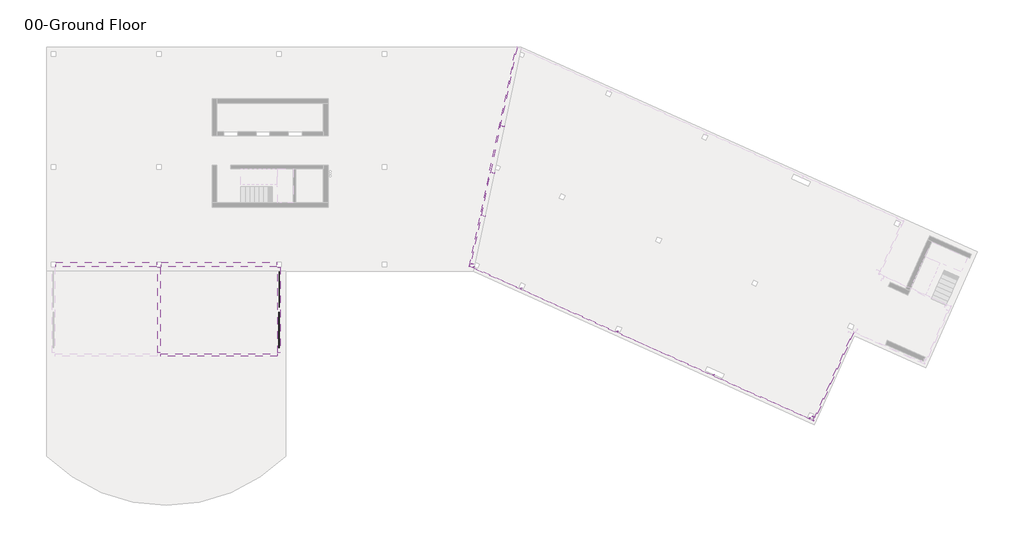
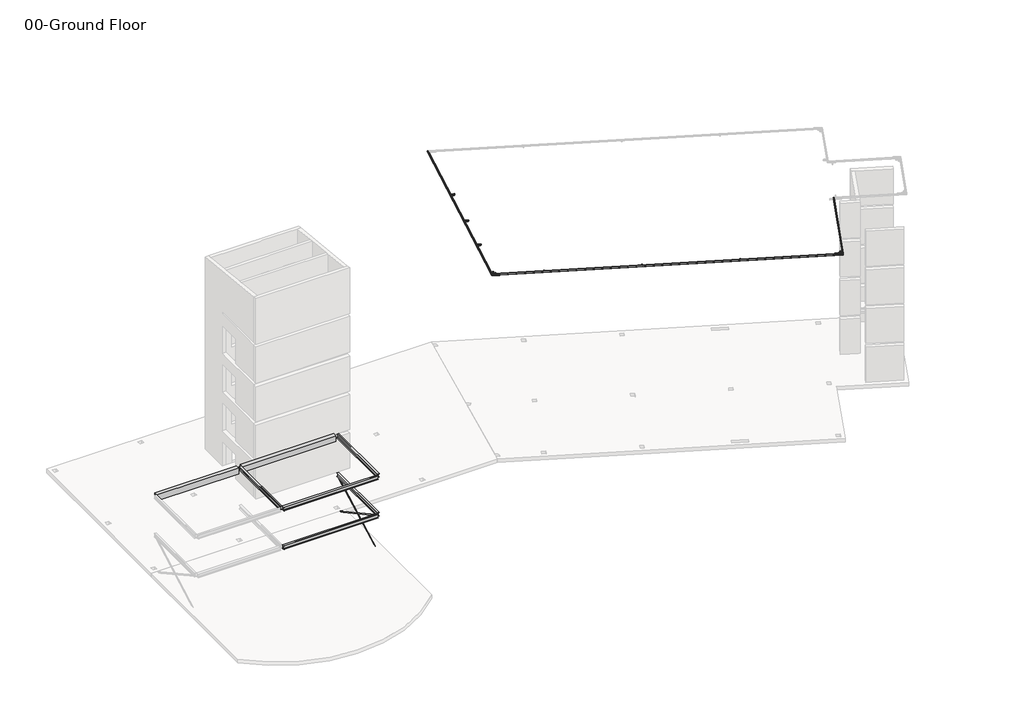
# One storey, part 3 of 5: 20 beams, 2 members.
"""IFC4 building model written with IfcOpenShell, lengths in millimetres."""

from ifc_helpers import new_model, si_unit, frame, origin, place, context, project, spatial, polyline, ellipse_curve, outline, extrude, transform, mapped, element, save
from ifc_brep_helpers import plane_surface, cylinder_surface, revolved_surface, advanced_brep
from components import hss_hollow_structural_section_hss3x2x1_8_139d3190, hss_hollow_structural_section_hss3x2x1_8_9bae5ac0, hss_hollow_structural_section_hss3x2x1_8_24952963, hss_hollow_structural_section_hss3x2x1_8_be35bb29, hss_hollow_structural_section_hss3x2x1_8_7ccaf686, hss_hollow_structural_section_hss3x2x1_8_c5a4428d, w_shapes_w12x26_597c9bcb, w_shapes_w12x26_85c0d87e, w_shapes_w12x26_268029d0, flat_bars_fl_3_8x4_f1b121f7, flat_bars_fl_3_8x4_35c656aa

model = new_model("IFC4")

# Units and contexts
model_context = context("Model", 3, world=origin())
ifc_project = project(units=[si_unit("LENGTHUNIT", "METRE", prefix="MILLI")], contexts=[model_context])

# Site, building, storey
site = spatial("IfcSite", under=ifc_project)
building = spatial("IfcBuilding", under=site)
storey = spatial("IfcBuildingStorey", under=building, Name="00-Ground Floor", Elevation=0.0)

# Beams
placement = place(None, origin())
element("IfcBeam", 1, ObjectType="Concrete-Rectangular Beam : 12 x 24", at=placement, inside=storey, context=model_context, shape_type="SweptSolid", body=[
    extrude(outline(polyline([(152.4, -14147.8), (152.4, -13843.0), (6858.0, -13843.0), (6858.0, -14147.8), (152.4, -14147.8)])), frame((0.0, 0.0, 5892.8), z_axis=(0.0, 0.0, 1.0), x_axis=(1.0, 0.0, 0.0)), (0.0, 0.0, 1.0), 508.0),
])
element("IfcBeam", 2, ObjectType="Concrete-Rectangular Beam : 12 x 24", at=placement, inside=storey, context=model_context, shape_type="SweptSolid", body=[
    extrude(outline(polyline([(14846.3, -13843.0), (14846.3, -14147.8), (7162.8, -14147.8), (7162.8, -13843.0), (14846.3, -13843.0)])), frame((0.0, 0.0, 5892.8), z_axis=(0.0, 0.0, 1.0), x_axis=(1.0, 0.0, 0.0)), (0.0, 0.0, 1.0), 508.0),
])
hss_hollow_structural_section_hss3x2x1_8_shape = hss_hollow_structural_section_hss3x2x1_8_139d3190(model_context)
element("IfcBeam", 3, ObjectType="HSS-Hollow Structural Section : HSS3X2X1/8", at=placement, inside=storey, context=model_context, shape_type="MappedRepresentation", body=[
    mapped(hss_hollow_structural_section_hss3x2x1_8_shape, transform((28553.1839899, -10746.3611508, 16083.2409028), x_axis=(0.9777434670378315, -0.20951645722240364, 0.010980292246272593), y_axis=(0.20870511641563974, 0.9766389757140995, 0.05117113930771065), z_axis=(-0.021444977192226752, -0.04774060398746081, 0.9986295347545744))),
])
element("IfcBeam", 4, ObjectType="HSS-Hollow Structural Section : HSS3X2X1/8", at=placement, inside=storey, context=model_context, shape_type="MappedRepresentation", body=[
    mapped(hss_hollow_structural_section_hss3x2x1_8_shape, transform((29163.4667864, -7890.5329109, 16232.8724333), x_axis=(0.9777434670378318, -0.20951645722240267, 0.010980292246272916), y_axis=(0.20870511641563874, 0.9766389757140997, 0.05117113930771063), z_axis=(-0.021444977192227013, -0.04774060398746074, 0.9986295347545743))),
])
element("IfcBeam", 5, ObjectType="HSS-Hollow Structural Section : HSS3X2X1/8", at=placement, inside=storey, context=model_context, shape_type="MappedRepresentation", body=[
    mapped(hss_hollow_structural_section_hss3x2x1_8_shape, transform((29824.9886577, -4794.9305897, 16395.0669613), x_axis=(0.9777434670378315, -0.2095164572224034, 0.010980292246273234), y_axis=(0.20870511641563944, 0.9766389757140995, 0.05117113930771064), z_axis=(-0.021444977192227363, -0.04774060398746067, 0.9986295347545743))),
])
hss_hollow_structural_section_hss3x2x1_8_2_shape = hss_hollow_structural_section_hss3x2x1_8_9bae5ac0(model_context)
element("IfcBeam", 6, ObjectType="HSS-Hollow Structural Section : HSS3X2X1/8", at=placement, inside=storey, context=model_context, shape_type="MappedRepresentation", body=[
    mapped(hss_hollow_structural_section_hss3x2x1_8_2_shape, transform((50488.6588069, -24090.2832168, 15916.3710717), x_axis=(0.9121951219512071, -0.4097560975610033, 0.0), y_axis=(0.4091945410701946, 0.910944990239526, 0.052335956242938), z_axis=(-0.021444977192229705, -0.04774060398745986, 0.9986295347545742))),
])
hss_hollow_structural_section_hss3x2x1_8_3_shape = hss_hollow_structural_section_hss3x2x1_8_24952963(model_context)
element("IfcBeam", 7, ObjectType="HSS-Hollow Structural Section : HSS3X2X1/8", at=placement, inside=storey, context=model_context, shape_type="MappedRepresentation", body=[
    mapped(hss_hollow_structural_section_hss3x2x1_8_3_shape, transform((50298.5513886, -24141.5699695, 15909.8368069), x_axis=(-0.4091945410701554, -0.9109449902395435, -0.052335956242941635), y_axis=(0.9121951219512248, -0.40975609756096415, 0.0), z_axis=(-0.021444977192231, -0.047740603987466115, 0.9986295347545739))),
])
element("IfcBeam", 8, ObjectType="HSS-Hollow Structural Section : HSS3X2X1/8", at=placement, inside=storey, context=model_context, shape_type="MappedRepresentation", body=[
    mapped(hss_hollow_structural_section_hss3x2x1_8_3_shape, transform((43903.6987057, -21269.0158231, 15909.8368069), x_axis=(-0.40919454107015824, -0.9109449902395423, -0.05233595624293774), y_axis=(0.9121951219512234, -0.4097560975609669, 0.0), z_axis=(-0.021444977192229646, -0.04774060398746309, 0.998629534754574))),
])
element("IfcBeam", 9, ObjectType="HSS-Hollow Structural Section : HSS3X2X1/8", at=placement, inside=storey, context=model_context, shape_type="MappedRepresentation", body=[
    mapped(hss_hollow_structural_section_hss3x2x1_8_3_shape, transform((31113.9933399, -15523.9075304, 15909.8368069), x_axis=(-0.40919454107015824, -0.9109449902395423, -0.05233595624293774), y_axis=(0.9121951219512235, -0.409756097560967, 0.0), z_axis=(-0.021444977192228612, -0.0477406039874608, 0.9986295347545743))),
])
hss_hollow_structural_section_hss3x2x1_8_4_shape = hss_hollow_structural_section_hss3x2x1_8_be35bb29(model_context)
element("IfcBeam", 10, ObjectType="HSS-Hollow Structural Section : HSS3X2X1/8", at=placement, inside=storey, context=model_context, shape_type="MappedRepresentation", body=[
    mapped(hss_hollow_structural_section_hss3x2x1_8_4_shape, transform((37509.7248478, -18394.5052449, 15909.9492086), x_axis=(-0.409194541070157, -0.910944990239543, -0.05233595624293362), y_axis=(0.912195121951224, -0.4097560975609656, 0.0), z_axis=(-0.021444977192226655, -0.04774060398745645, 0.9986295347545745))),
])
hss_hollow_structural_section_hss3x2x1_8_5_shape = hss_hollow_structural_section_hss3x2x1_8_7ccaf686(model_context)
element("IfcBeam", 11, ObjectType="HSS-Hollow Structural Section : HSS3X2X1/8", at=placement, inside=storey, context=model_context, shape_type="MappedRepresentation", body=[
    mapped(hss_hollow_structural_section_hss3x2x1_8_5_shape, transform((27860.6590059, -13959.5725396, 15914.7581682), x_axis=(-0.9777434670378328, 0.209516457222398, -0.010980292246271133), y_axis=(-0.20870511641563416, -0.9766389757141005, -0.05117113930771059), z_axis=(-0.021444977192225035, -0.047740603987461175, 0.9986295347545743))),
])
hss_hollow_structural_section_hss3x2x1_8_6_shape = hss_hollow_structural_section_hss3x2x1_8_c5a4428d(model_context)
element("IfcBeam", 12, ObjectType="HSS-Hollow Structural Section : HSS3X2X1/8", at=placement, inside=storey, context=model_context, shape_type="MappedRepresentation", body=[
    mapped(hss_hollow_structural_section_hss3x2x1_8_6_shape, transform((27952.9662678, -14104.0086143, 15909.8354835), x_axis=(-0.40919454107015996, -0.9109449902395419, -0.05233595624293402), y_axis=(0.9121951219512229, -0.40975609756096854, 0.0), z_axis=(-0.02144497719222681, -0.0477406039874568, 0.9986295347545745))),
])
element("IfcBeam", 13, ObjectType="HSS-Hollow Structural Section : HSS5X2X1/8", at=placement, inside=storey, context=model_context, shape_type="AdvancedBrep", body=[
    advanced_brep(
    [(30775.5166497, 477.596911, 16705.6903584), (30771.4031294, 486.233955, 16700.1140396), (27647.3085375, -14133.0173345, 15934.13627), (27653.9377637, -14129.882092, 15940.3293994), (30803.5876534, 422.2762939, 16703.6485024), (27698.6644754, -14107.262053, 15942.3712554), (30807.9539155, 414.2019015, 16697.455373), (27705.5464435, -14103.5641587, 15936.7949366), (30810.4246857, 419.7023065, 16582.3988703), (27708.0172137, -14098.0637537, 15821.7384339), (30806.3111655, 428.3393506, 16576.8225515), (27701.3879876, -14101.1989963, 15815.5453044), (30778.2401618, 483.6599677, 16578.8644074), (27656.6612758, -14123.8190353, 15813.5034485), (30773.8738996, 491.73436, 16585.0575369), (27649.7793077, -14127.5169295, 15819.0797673), (30775.5798351, 477.7375739, 16702.7479963), (30803.6508388, 422.4169568, 16700.7061404), (27698.7276609, -14107.1213901, 15939.4288933), (27654.0009491, -14129.7414291, 15937.3870374), (30773.523075, 482.0560959, 16699.9598369), (27650.6863361, -14131.3090503, 15934.2904726), (30775.9938452, 487.5565009, 16584.9033342), (27653.1571062, -14125.8086453, 15819.23397), (30778.1769763, 483.5193048, 16581.8067695), (27656.5980903, -14123.9596982, 15816.4458106), (30806.24798, 428.1986877, 16579.7649136), (27701.3248021, -14101.3396592, 15818.4876665), (30808.3047401, 423.8801657, 16582.553073), (27704.6394151, -14099.7720379, 15821.5842312), (30805.8339699, 418.3797606, 16697.6095756), (27702.168645, -14105.2724429, 15936.6407339)],
    [
        (0, 1, ellipse_curve(frame((30775.6430206, 477.8782368, 16699.8056342), z_axis=(-0.89162974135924, -0.4509318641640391, -0.04070452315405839), x_axis=(-0.45225713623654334, 0.8912807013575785, 0.0328967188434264)), 9.3749569, 5.8928)),
        (1, 2),
        (2, 3, ellipse_curve(frame((27654.0641346, -14129.6007661, 15934.4446753), z_axis=(-0.452257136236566, 0.8912807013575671, 0.03289671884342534), x_axis=(0.8916297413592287, 0.45093186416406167, 0.04070452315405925)), 7.5766843, 5.8928)),
        (3, 0),
        (4, 0),
        (3, 5),
        (5, 4),
        (6, 4, ellipse_curve(frame((30803.7140243, 422.5576197, 16697.7637783), z_axis=(-0.89162974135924, -0.4509318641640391, -0.04070452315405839), x_axis=(-0.45225713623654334, 0.8912807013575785, 0.0328967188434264)), 9.3749569, 5.8928)),
        (5, 7, ellipse_curve(frame((27698.7908464, -14106.9807271, 15936.4865312), z_axis=(-0.452257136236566, 0.8912807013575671, 0.03289671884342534), x_axis=(0.8916297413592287, 0.45093186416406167, 0.04070452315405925)), 7.5766843, 5.8928)),
        (7, 6),
        (8, 6),
        (7, 9),
        (9, 8),
        (10, 8, ellipse_curve(frame((30806.1847945, 428.0580248, 16582.7072756), z_axis=(-0.89162974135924, -0.4509318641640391, -0.04070452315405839), x_axis=(-0.45225713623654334, 0.8912807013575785, 0.0328967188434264)), 9.3749569, 5.8928)),
        (9, 11, ellipse_curve(frame((27701.2616166, -14101.4803221, 15821.4300286), z_axis=(-0.452257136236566, 0.8912807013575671, 0.03289671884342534), x_axis=(0.8916297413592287, 0.45093186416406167, 0.04070452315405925)), 7.5766843, 5.8928)),
        (11, 10),
        (12, 10),
        (11, 13),
        (13, 12),
        (14, 12, ellipse_curve(frame((30778.1137908, 483.3786418, 16584.7491316), z_axis=(-0.89162974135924, -0.4509318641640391, -0.04070452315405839), x_axis=(-0.45225713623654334, 0.8912807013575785, 0.0328967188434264)), 9.3749569, 5.8928)),
        (13, 15, ellipse_curve(frame((27656.5349048, -14124.1003611, 15819.3881726), z_axis=(-0.452257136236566, 0.8912807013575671, 0.03289671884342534), x_axis=(0.8916297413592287, 0.45093186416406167, 0.04070452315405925)), 7.5766843, 5.8928)),
        (15, 14),
        (1, 14),
        (15, 2),
        (16, 17),
        (17, 18),
        (18, 19),
        (19, 16),
        (20, 16, ellipse_curve(frame((30775.6430206, 477.8782368, 16699.8056342), z_axis=(0.89162974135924, 0.4509318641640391, 0.04070452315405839), x_axis=(0.45225713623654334, -0.8912807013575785, -0.0328967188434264)), 4.6874785, 2.9464)),
        (19, 21, ellipse_curve(frame((27654.0641346, -14129.6007661, 15934.4446753), z_axis=(0.452257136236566, -0.8912807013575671, -0.03289671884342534), x_axis=(-0.8916297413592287, -0.45093186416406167, -0.04070452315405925)), 3.7883422, 2.9464)),
        (21, 20),
        (22, 20),
        (21, 23),
        (23, 22),
        (24, 22, ellipse_curve(frame((30778.1137908, 483.3786418, 16584.7491316), z_axis=(0.89162974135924, 0.4509318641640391, 0.04070452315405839), x_axis=(0.45225713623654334, -0.8912807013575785, -0.0328967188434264)), 4.6874785, 2.9464)),
        (23, 25, ellipse_curve(frame((27656.5349048, -14124.1003611, 15819.3881726), z_axis=(0.452257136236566, -0.8912807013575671, -0.03289671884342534), x_axis=(-0.8916297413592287, -0.45093186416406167, -0.04070452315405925)), 3.7883422, 2.9464)),
        (25, 24),
        (26, 24),
        (25, 27),
        (27, 26),
        (28, 26, ellipse_curve(frame((30806.1847945, 428.0580248, 16582.7072756), z_axis=(0.89162974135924, 0.4509318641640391, 0.04070452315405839), x_axis=(0.45225713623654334, -0.8912807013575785, -0.0328967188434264)), 4.6874785, 2.9464)),
        (27, 29, ellipse_curve(frame((27701.2616166, -14101.4803221, 15821.4300286), z_axis=(0.452257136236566, -0.8912807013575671, -0.03289671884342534), x_axis=(-0.8916297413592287, -0.45093186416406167, -0.04070452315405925)), 3.7883422, 2.9464)),
        (29, 28),
        (30, 28),
        (29, 31),
        (31, 30),
        (17, 30, ellipse_curve(frame((30803.7140243, 422.5576197, 16697.7637783), z_axis=(0.89162974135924, 0.4509318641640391, 0.04070452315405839), x_axis=(0.45225713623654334, -0.8912807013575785, -0.0328967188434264)), 4.6874785, 2.9464)),
        (31, 18, ellipse_curve(frame((27698.7908464, -14106.9807271, 15936.4865312), z_axis=(0.452257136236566, -0.8912807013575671, -0.03289671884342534), x_axis=(-0.8916297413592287, -0.45093186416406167, -0.04070452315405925)), 3.7883422, 2.9464)),
    ],
    [
        cylinder_surface(frame((30770.6054851, 454.3050077, 16698.5705115), z_axis=(0.2087051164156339, 0.9766389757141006, 0.05117113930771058), x_axis=(0.9777434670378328, -0.20951645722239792, 0.010980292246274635)), 5.8928),
        plane_surface(frame((30770.4791142, 454.0236819, 16704.4552356), z_axis=(-0.02144497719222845, -0.04774060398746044, 0.9986295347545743), x_axis=(-0.2087051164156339, -0.9766389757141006, -0.05117113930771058))),
        cylinder_surface(frame((30808.7515598, 446.1308488, 16698.998901), z_axis=(0.2087051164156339, 0.9766389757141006, 0.05117113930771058), x_axis=(0.9777434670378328, -0.20951645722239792, 0.010980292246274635)), 5.8928),
        plane_surface(frame((30814.5132065, 444.8962102, 16699.0636057), z_axis=(0.9777434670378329, -0.20951645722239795, 0.010980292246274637), x_axis=(-0.2087051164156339, -0.9766389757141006, -0.05117113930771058))),
        cylinder_surface(frame((30811.22233, 451.6312539, 16583.9423984), z_axis=(0.2087051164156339, 0.9766389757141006, 0.05117113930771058), x_axis=(0.9777434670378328, -0.20951645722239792, 0.010980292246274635)), 5.8928),
        plane_surface(frame((30811.348701, 451.9125797, 16578.0576742), z_axis=(0.02144497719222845, 0.04774060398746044, -0.9986295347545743), x_axis=(-0.2087051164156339, -0.9766389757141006, -0.05117113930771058))),
        cylinder_surface(frame((30773.0762553, 459.8054127, 16583.5140088), z_axis=(0.2087051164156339, 0.9766389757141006, 0.05117113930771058), x_axis=(0.9777434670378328, -0.20951645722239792, 0.010980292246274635)), 5.8928),
        plane_surface(frame((30767.3146086, 461.0400513, 16583.4493042), z_axis=(-0.9777434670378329, 0.20951645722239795, -0.010980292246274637), x_axis=(-0.2087051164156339, -0.9766389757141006, -0.05117113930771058))),
        plane_surface(frame((30808.6883744, 445.9901859, 16701.9412631), z_axis=(0.02144497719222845, 0.04774060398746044, -0.9986295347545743), x_axis=(-0.2087051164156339, -0.9766389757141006, -0.05117113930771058))),
        revolved_surface(polyline([(27656.44798275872, -14132.54368889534, 15934.355177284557), (30779.284721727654, 480.82145733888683, 16700.024541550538)]), (30770.6054851, 454.3050077, 16698.5705115), (-0.2087051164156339, -0.9766389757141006, -0.05117113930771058)),
        plane_surface(frame((30767.7246618, 454.922327, 16698.5381592), z_axis=(0.9777434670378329, -0.20951645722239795, 0.010980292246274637), x_axis=(-0.2087051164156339, -0.9766389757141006, -0.05117113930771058))),
        revolved_surface(polyline([(27658.91875295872, -14127.04328389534, 15819.29867458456), (30781.75549192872, 486.3218623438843, 16584.968038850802)]), (30773.0762553, 459.8054127, 16583.5140088), (-0.2087051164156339, -0.9766389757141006, -0.05117113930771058)),
        plane_surface(frame((30773.1394408, 459.9460756, 16580.5716468), z_axis=(-0.02144497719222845, -0.04774060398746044, 0.9986295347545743), x_axis=(-0.2087051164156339, -0.9766389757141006, -0.05117113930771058))),
        revolved_surface(polyline([(27703.64546471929, -14104.423244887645, 15821.340530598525), (30809.826495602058, 431.00124534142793, 16582.92618300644)]), (30811.22233, 451.6312539, 16583.9423984), (-0.2087051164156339, -0.9766389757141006, -0.05117113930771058)),
        plane_surface(frame((30814.1031534, 451.0139346, 16583.9747507), z_axis=(-0.9777434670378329, 0.20951645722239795, -0.010980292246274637), x_axis=(-0.2087051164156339, -0.9766389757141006, -0.05117113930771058))),
        revolved_surface(polyline([(27701.174694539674, -14109.923649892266, 15936.397033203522), (30807.355725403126, 425.5008402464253, 16697.9826856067)]), (30808.7515598, 446.1308488, 16698.998901), (-0.2087051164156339, -0.9766389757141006, -0.05117113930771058)),
        plane_surface(frame((27703.7859653, -14107.4833186, 16018.7752312), z_axis=(0.4522571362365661, -0.8912807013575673, -0.03289671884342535), x_axis=(0.8918875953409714, 0.45194939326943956, 0.016681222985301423))),
        plane_surface(frame((30806.1934373, 410.2827416, 16779.4356677), z_axis=(0.8916297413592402, 0.4509318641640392, 0.0407045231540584), x_axis=(0.4527652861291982, -0.8880191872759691, -0.08015933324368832))),
    ],
    [
        (0, [[1, 2, 3, 4]]),
        (1, [[5, -4, 6, 7]]),
        (2, [[8, -7, 9, 10]]),
        (3, [[11, -10, 12, 13]]),
        (4, [[14, -13, 15, 16]]),
        (5, [[17, -16, 18, 19]]),
        (6, [[20, -19, 21, 22]]),
        (7, [[23, -22, 24, -2]]),
        (8, [[25, 26, 27, 28]]),
        (9, [[29, -28, 30, 31]]),
        (10, [[32, -31, 33, 34]]),
        (11, [[35, -34, 36, 37]]),
        (12, [[38, -37, 39, 40]]),
        (13, [[41, -40, 42, 43]]),
        (14, [[44, -43, 45, 46]]),
        (15, [[47, -46, 48, -26]]),
        (16, [[-24, -21, -18, -15, -12, -9, -6, -3], [-48, -45, -42, -39, -36, -33, -30, -27]]),
        (17, [[-1, -5, -8, -11, -14, -17, -20, -23], [-25, -29, -32, -35, -38, -41, -44, -47]]),
    ],
),
])
element("IfcBeam", 14, ObjectType="HSS-Hollow Structural Section : HSS5X2X1/8", at=placement, inside=storey, context=model_context, shape_type="AdvancedBrep", body=[
    advanced_brep(
    [(50534.4946594, -24407.7793072, 15940.3293994), (50537.5851122, -24415.2806087, 15934.13627), (53189.4955866, -18511.6227668, 16273.315454), (53186.4051338, -18504.1214652, 16279.5085835), (50514.8703935, -24356.2529467, 15942.3712554), (53166.780868, -18452.5951047, 16281.5504394), (50512.0326827, -24348.1889935, 15936.7949366), (53163.9431571, -18444.5311515, 16275.9741206), (50514.5034528, -24342.6885884, 15821.7384339), (53166.4139273, -18439.0307465, 16160.9176179), (50517.5939056, -24350.1898899, 15815.5453044), (53169.5043801, -18446.532048, 16154.7244885), (50537.2181715, -24401.7162505, 15813.5034485), (53189.128646, -18498.0584085, 16152.6826325), (50540.0558824, -24409.7802037, 15819.0797673), (53191.9663568, -18506.1223617, 16158.2589513), (50534.5578449, -24407.6386443, 15937.3870374), (50514.933579, -24356.1122837, 15939.4288933), (53166.8440535, -18452.4544418, 16278.6080773), (53186.4683193, -18503.9808023, 16276.5662214), (50536.1030713, -24411.389295, 15934.2904726), (53188.0135457, -18507.7314531, 16273.4696567), (50538.5738414, -24405.88889, 15819.23397), (53190.4843159, -18502.231048, 16158.413154), (50537.154986, -24401.8569134, 15816.4458106), (53189.0654605, -18498.1990714, 16155.6249946), (50517.5307202, -24350.3305529, 15818.4876665), (53169.4411946, -18446.6727109, 16157.6668505), (50515.9854938, -24346.5799021, 15821.5842312), (53167.8959682, -18442.9220602, 16160.7634153), (50513.5147236, -24352.0803071, 15936.6407339), (53165.425198, -18448.4224652, 16275.8199179)],
    [
        (0, 1, ellipse_curve(frame((50534.6210304, -24407.4979813, 15934.4446753), z_axis=(0.9343635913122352, 0.354394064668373, 0.0370071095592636), x_axis=(0.3556751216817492, -0.9338766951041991, -0.037007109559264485)), 8.3336777, 5.8928)),
        (1, 2),
        (2, 3, ellipse_curve(frame((53186.5315048, -18503.8401394, 16273.6238593), z_axis=(-0.9343635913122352, -0.354394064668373, -0.0370071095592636), x_axis=(0.3556751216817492, -0.9338766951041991, -0.037007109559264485)), 8.3336777, 5.8928)),
        (3, 0),
        (4, 0),
        (3, 5),
        (5, 4),
        (6, 4, ellipse_curve(frame((50514.9967645, -24355.9716208, 15936.4865312), z_axis=(0.9343635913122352, 0.354394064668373, 0.0370071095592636), x_axis=(0.3556751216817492, -0.9338766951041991, -0.037007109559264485)), 8.3336777, 5.8928)),
        (5, 7, ellipse_curve(frame((53166.9072389, -18452.3137789, 16275.6657153), z_axis=(-0.9343635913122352, -0.354394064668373, -0.0370071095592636), x_axis=(0.3556751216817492, -0.9338766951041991, -0.037007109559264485)), 8.3336777, 5.8928)),
        (7, 6),
        (8, 6),
        (7, 9),
        (9, 8),
        (10, 8, ellipse_curve(frame((50517.4675347, -24350.4712158, 15821.4300286), z_axis=(0.9343635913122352, 0.354394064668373, 0.0370071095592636), x_axis=(0.3556751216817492, -0.9338766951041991, -0.037007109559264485)), 8.3336777, 5.8928)),
        (9, 11, ellipse_curve(frame((53169.3780091, -18446.8133738, 16160.6092126), z_axis=(-0.9343635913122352, -0.354394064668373, -0.0370071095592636), x_axis=(0.3556751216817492, -0.9338766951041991, -0.037007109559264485)), 8.3336777, 5.8928)),
        (11, 10),
        (12, 10),
        (11, 13),
        (13, 12),
        (14, 12, ellipse_curve(frame((50537.0918005, -24401.9975763, 15819.3881726), z_axis=(0.9343635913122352, 0.354394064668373, 0.0370071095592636), x_axis=(0.3556751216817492, -0.9338766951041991, -0.037007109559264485)), 8.3336777, 5.8928)),
        (13, 15, ellipse_curve(frame((53189.002275, -18498.3397344, 16158.5673567), z_axis=(-0.9343635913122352, -0.354394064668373, -0.0370071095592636), x_axis=(0.3556751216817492, -0.9338766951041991, -0.037007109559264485)), 8.3336777, 5.8928)),
        (15, 14),
        (1, 14),
        (15, 2),
        (16, 17),
        (17, 18),
        (18, 19),
        (19, 16),
        (20, 16, ellipse_curve(frame((50534.6210304, -24407.4979813, 15934.4446753), z_axis=(-0.9343635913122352, -0.354394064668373, -0.0370071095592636), x_axis=(-0.3556751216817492, 0.9338766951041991, 0.037007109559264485)), 4.1668388, 2.9464)),
        (19, 21, ellipse_curve(frame((53186.5315048, -18503.8401394, 16273.6238593), z_axis=(0.9343635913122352, 0.354394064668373, 0.0370071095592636), x_axis=(-0.3556751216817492, 0.9338766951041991, 0.037007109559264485)), 4.1668388, 2.9464)),
        (21, 20),
        (22, 20),
        (21, 23),
        (23, 22),
        (24, 22, ellipse_curve(frame((50537.0918005, -24401.9975763, 15819.3881726), z_axis=(-0.9343635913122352, -0.354394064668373, -0.0370071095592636), x_axis=(-0.3556751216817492, 0.9338766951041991, 0.037007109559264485)), 4.1668388, 2.9464)),
        (23, 25, ellipse_curve(frame((53189.002275, -18498.3397344, 16158.5673567), z_axis=(0.9343635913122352, 0.354394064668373, 0.0370071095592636), x_axis=(-0.3556751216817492, 0.9338766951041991, 0.037007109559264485)), 4.1668388, 2.9464)),
        (25, 24),
        (26, 24),
        (25, 27),
        (27, 26),
        (28, 26, ellipse_curve(frame((50517.4675347, -24350.4712158, 15821.4300286), z_axis=(-0.9343635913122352, -0.354394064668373, -0.0370071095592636), x_axis=(-0.3556751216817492, 0.9338766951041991, 0.037007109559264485)), 4.1668388, 2.9464)),
        (27, 29, ellipse_curve(frame((53169.3780091, -18446.8133738, 16160.6092126), z_axis=(0.9343635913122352, 0.354394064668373, 0.0370071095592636), x_axis=(-0.3556751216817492, 0.9338766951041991, 0.037007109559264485)), 4.1668388, 2.9464)),
        (29, 28),
        (30, 28),
        (29, 31),
        (31, 30),
        (17, 30, ellipse_curve(frame((50514.9967645, -24355.9716208, 15936.4865312), z_axis=(-0.9343635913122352, -0.354394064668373, -0.0370071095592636), x_axis=(-0.3556751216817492, 0.9338766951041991, 0.037007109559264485)), 4.1668388, 2.9464)),
        (31, 18, ellipse_curve(frame((53166.9072389, -18452.3137789, 16275.6657153), z_axis=(0.9343635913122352, 0.354394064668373, 0.0370071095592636), x_axis=(-0.3556751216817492, 0.9338766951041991, 0.037007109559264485)), 4.1668388, 2.9464)),
    ],
    [
        cylinder_surface(frame((50542.6032701, -24389.7279952, 15935.4656033), z_axis=(-0.40919454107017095, -0.9109449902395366, -0.05233595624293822), x_axis=(-0.9121951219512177, 0.4097560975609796, 0.0)), 5.8928),
        plane_surface(frame((50542.4768991, -24390.0093211, 15941.3503274), z_axis=(-0.02144497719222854, -0.04774060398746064, 0.9986295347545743), x_axis=(0.409194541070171, 0.9109449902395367, 0.05233595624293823))),
        cylinder_surface(frame((50507.0145247, -24373.7416069, 15935.4656033), z_axis=(-0.40919454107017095, -0.9109449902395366, -0.05233595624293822), x_axis=(-0.9121951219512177, 0.4097560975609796, 0.0)), 5.8928),
        plane_surface(frame((50501.6391413, -24371.3269962, 15935.4656033), z_axis=(-0.9121951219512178, 0.40975609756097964, 0.0), x_axis=(0.409194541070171, 0.9109449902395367, 0.05233595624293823))),
        cylinder_surface(frame((50509.4852949, -24368.2412019, 15820.4091006), z_axis=(-0.40919454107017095, -0.9109449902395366, -0.05233595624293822), x_axis=(-0.9121951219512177, 0.4097560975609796, 0.0)), 5.8928),
        plane_surface(frame((50509.6116659, -24367.9598761, 15814.5243765), z_axis=(0.02144497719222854, 0.04774060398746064, -0.9986295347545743), x_axis=(0.409194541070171, 0.9109449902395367, 0.05233595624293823))),
        cylinder_surface(frame((50545.0740403, -24384.2275902, 15820.4091006), z_axis=(-0.40919454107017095, -0.9109449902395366, -0.05233595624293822), x_axis=(-0.9121951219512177, 0.4097560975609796, 0.0)), 5.8928),
        plane_surface(frame((50550.4494237, -24386.6422009, 15820.4091006), z_axis=(0.9121951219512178, -0.40975609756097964, 0.0), x_axis=(0.409194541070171, 0.9109449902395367, 0.05233595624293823))),
        plane_surface(frame((50506.9513393, -24373.8822699, 15938.4079653), z_axis=(0.02144497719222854, 0.04774060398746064, -0.9986295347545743), x_axis=(0.409194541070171, 0.9109449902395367, 0.05233595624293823))),
        revolved_surface(polyline([(53185.0494638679, -18499.948825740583, 16273.778062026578), (50530.72768784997, -24408.974684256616, 15934.290472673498)]), (50542.6032701, -24389.7279952, 15935.4656033), (0.40919454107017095, 0.9109449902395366, 0.05233595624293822)),
        plane_surface(frame((50545.2909618, -24390.9353006, 15935.4656033), z_axis=(-0.9121951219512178, 0.40975609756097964, 0.0), x_axis=(0.409194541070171, 0.9109449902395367, 0.05233595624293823))),
        revolved_surface(polyline([(53187.52023407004, -18494.448420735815, 16158.721559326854), (50533.19845803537, -24403.474279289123, 15819.233969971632)]), (50545.0740403, -24384.2275902, 15820.4091006), (0.40919454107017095, 0.9109449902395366, 0.05233595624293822)),
        plane_surface(frame((50545.1372258, -24384.0869273, 15817.4667385), z_axis=(-0.02144497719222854, -0.04774060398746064, 0.9986295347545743), x_axis=(0.409194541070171, 0.9109449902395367, 0.05233595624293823))),
        revolved_surface(polyline([(53167.89596819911, -18442.922060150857, 16160.763415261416), (50513.57419216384, -24351.9479187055, 15821.275825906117)]), (50509.4852949, -24368.2412019, 15820.4091006), (0.40919454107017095, 0.9109449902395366, 0.05233595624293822)),
        plane_surface(frame((50506.7976032, -24367.0338965, 15820.4091006), z_axis=(0.9121951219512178, -0.40975609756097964, 0.0), x_axis=(0.409194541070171, 0.9109449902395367, 0.05233595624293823))),
        revolved_surface(polyline([(53165.425197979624, -18448.422465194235, 16275.819917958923), (50511.10342196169, -24357.44832371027, 15936.332328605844)]), (50507.0145247, -24373.7416069, 15935.4656033), (0.40919454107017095, 0.9109449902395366, 0.05233595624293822)),
        plane_surface(frame((53187.7351084, -18515.5419266, 16355.2957487), z_axis=(0.9343635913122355, 0.35439406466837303, 0.037007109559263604), x_axis=(0.35632103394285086, -0.9293105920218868, -0.09704197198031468))),
        plane_surface(frame((50510.2722044, -24352.1081533, 16018.7752312), z_axis=(-0.9343635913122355, -0.35439406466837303, -0.037007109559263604), x_axis=(0.35632103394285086, -0.9293105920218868, -0.09704197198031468))),
    ],
    [
        (0, [[1, 2, 3, 4]]),
        (1, [[5, -4, 6, 7]]),
        (2, [[8, -7, 9, 10]]),
        (3, [[11, -10, 12, 13]]),
        (4, [[14, -13, 15, 16]]),
        (5, [[17, -16, 18, 19]]),
        (6, [[20, -19, 21, 22]]),
        (7, [[23, -22, 24, -2]]),
        (8, [[25, 26, 27, 28]]),
        (9, [[29, -28, 30, 31]]),
        (10, [[32, -31, 33, 34]]),
        (11, [[35, -34, 36, 37]]),
        (12, [[38, -37, 39, 40]]),
        (13, [[41, -40, 42, 43]]),
        (14, [[44, -43, 45, 46]]),
        (15, [[47, -46, 48, -26]]),
        (16, [[-24, -21, -18, -15, -12, -9, -6, -3], [-48, -45, -42, -39, -36, -33, -30, -27]]),
        (17, [[-1, -5, -8, -11, -14, -17, -20, -23], [-25, -29, -32, -35, -38, -41, -44, -47]]),
    ],
),
])
element("IfcBeam", 15, ObjectType="HSS-Hollow Structural Section : HSS5X2X1/8", at=placement, inside=storey, context=model_context, shape_type="AdvancedBrep", body=[
    advanced_brep(
    [(27653.9377637, -14129.882092, 15940.3293994), (27647.3085375, -14133.0173345, 15934.13627), (50537.5851122, -24415.2806087, 15934.13627), (50534.4946594, -24407.7793072, 15940.3293994), (27698.6644754, -14107.262053, 15942.3712554), (50514.8703935, -24356.2529467, 15942.3712554), (27705.5464435, -14103.5641587, 15936.7949366), (50512.0326827, -24348.1889935, 15936.7949366), (27708.0172137, -14098.0637537, 15821.7384339), (50514.5034528, -24342.6885884, 15821.7384339), (27701.3879876, -14101.1989963, 15815.5453044), (50517.5939056, -24350.1898899, 15815.5453044), (27656.6612758, -14123.8190353, 15813.5034485), (50537.2181715, -24401.7162505, 15813.5034485), (27649.7793077, -14127.5169295, 15819.0797673), (50540.0558824, -24409.7802037, 15819.0797673), (27654.0009491, -14129.7414291, 15937.3870374), (27698.7276609, -14107.1213901, 15939.4288933), (50514.933579, -24356.1122837, 15939.4288933), (50534.5578449, -24407.6386443, 15937.3870374), (27650.6863361, -14131.3090503, 15934.2904726), (50536.1030713, -24411.389295, 15934.2904726), (27653.1571062, -14125.8086453, 15819.23397), (50538.5738414, -24405.88889, 15819.23397), (27656.5980903, -14123.9596982, 15816.4458106), (50537.154986, -24401.8569134, 15816.4458106), (27701.3248021, -14101.3396592, 15818.4876665), (50517.5307202, -24350.3305529, 15818.4876665), (27704.6394151, -14099.7720379, 15821.5842312), (50515.9854938, -24346.5799021, 15821.5842312), (27702.168645, -14105.2724429, 15936.6407339), (50513.5147236, -24352.0803071, 15936.6407339)],
    [
        (0, 1, ellipse_curve(frame((27654.0641346, -14129.6007661, 15934.4446753), z_axis=(0.45225713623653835, -0.8912807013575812, -0.032896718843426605), x_axis=(-0.8916297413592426, -0.450931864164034, -0.04070452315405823)), 7.5766843, 5.8928)),
        (1, 2),
        (2, 3, ellipse_curve(frame((50534.6210304, -24407.4979813, 15934.4446753), z_axis=(-0.9343635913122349, -0.354394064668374, -0.037007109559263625), x_axis=(-0.3556751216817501, 0.9338766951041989, 0.03700710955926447)), 8.3336777, 5.8928)),
        (3, 0),
        (4, 0),
        (3, 5),
        (5, 4),
        (6, 4, ellipse_curve(frame((27698.7908464, -14106.9807271, 15936.4865312), z_axis=(0.45225713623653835, -0.8912807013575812, -0.032896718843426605), x_axis=(-0.8916297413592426, -0.450931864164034, -0.04070452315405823)), 7.5766843, 5.8928)),
        (5, 7, ellipse_curve(frame((50514.9967645, -24355.9716208, 15936.4865312), z_axis=(-0.9343635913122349, -0.354394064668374, -0.037007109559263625), x_axis=(-0.3556751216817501, 0.9338766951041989, 0.03700710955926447)), 8.3336777, 5.8928)),
        (7, 6),
        (8, 6),
        (7, 9),
        (9, 8),
        (10, 8, ellipse_curve(frame((27701.2616166, -14101.4803221, 15821.4300286), z_axis=(0.45225713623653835, -0.8912807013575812, -0.032896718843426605), x_axis=(-0.8916297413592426, -0.450931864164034, -0.04070452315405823)), 7.5766843, 5.8928)),
        (9, 11, ellipse_curve(frame((50517.4675347, -24350.4712158, 15821.4300286), z_axis=(-0.9343635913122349, -0.354394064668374, -0.037007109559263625), x_axis=(-0.3556751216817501, 0.9338766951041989, 0.03700710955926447)), 8.3336777, 5.8928)),
        (11, 10),
        (12, 10),
        (11, 13),
        (13, 12),
        (14, 12, ellipse_curve(frame((27656.5349048, -14124.1003611, 15819.3881726), z_axis=(0.45225713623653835, -0.8912807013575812, -0.032896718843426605), x_axis=(-0.8916297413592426, -0.450931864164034, -0.04070452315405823)), 7.5766843, 5.8928)),
        (13, 15, ellipse_curve(frame((50537.0918005, -24401.9975763, 15819.3881726), z_axis=(-0.9343635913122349, -0.354394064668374, -0.037007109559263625), x_axis=(-0.3556751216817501, 0.9338766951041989, 0.03700710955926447)), 8.3336777, 5.8928)),
        (15, 14),
        (1, 14),
        (15, 2),
        (16, 17),
        (17, 18),
        (18, 19),
        (19, 16),
        (20, 16, ellipse_curve(frame((27654.0641346, -14129.6007661, 15934.4446753), z_axis=(-0.45225713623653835, 0.8912807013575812, 0.032896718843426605), x_axis=(0.8916297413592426, 0.450931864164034, 0.04070452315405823)), 3.7883422, 2.9464)),
        (19, 21, ellipse_curve(frame((50534.6210304, -24407.4979813, 15934.4446753), z_axis=(0.9343635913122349, 0.354394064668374, 0.037007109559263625), x_axis=(0.3556751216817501, -0.9338766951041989, -0.03700710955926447)), 4.1668388, 2.9464)),
        (21, 20),
        (22, 20),
        (21, 23),
        (23, 22),
        (24, 22, ellipse_curve(frame((27656.5349048, -14124.1003611, 15819.3881726), z_axis=(-0.45225713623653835, 0.8912807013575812, 0.032896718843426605), x_axis=(0.8916297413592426, 0.450931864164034, 0.04070452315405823)), 3.7883422, 2.9464)),
        (23, 25, ellipse_curve(frame((50537.0918005, -24401.9975763, 15819.3881726), z_axis=(0.9343635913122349, 0.354394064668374, 0.037007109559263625), x_axis=(0.3556751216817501, -0.9338766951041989, -0.03700710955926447)), 4.1668388, 2.9464)),
        (25, 24),
        (26, 24),
        (25, 27),
        (27, 26),
        (28, 26, ellipse_curve(frame((27701.2616166, -14101.4803221, 15821.4300286), z_axis=(-0.45225713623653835, 0.8912807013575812, 0.032896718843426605), x_axis=(0.8916297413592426, 0.450931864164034, 0.04070452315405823)), 3.7883422, 2.9464)),
        (27, 29, ellipse_curve(frame((50517.4675347, -24350.4712158, 15821.4300286), z_axis=(0.9343635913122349, 0.354394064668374, 0.037007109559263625), x_axis=(0.3556751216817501, -0.9338766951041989, -0.03700710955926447)), 4.1668388, 2.9464)),
        (29, 28),
        (30, 28),
        (29, 31),
        (31, 30),
        (17, 30, ellipse_curve(frame((27698.7908464, -14106.9807271, 15936.4865312), z_axis=(-0.45225713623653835, 0.8912807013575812, 0.032896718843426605), x_axis=(0.8916297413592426, 0.450931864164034, 0.04070452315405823)), 3.7883422, 2.9464)),
        (31, 18, ellipse_curve(frame((50514.9967645, -24355.9716208, 15936.4865312), z_axis=(0.9343635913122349, 0.354394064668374, 0.037007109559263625), x_axis=(0.3556751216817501, -0.9338766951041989, -0.03700710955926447)), 4.1668388, 2.9464)),
    ],
    [
        cylinder_surface(frame((27668.4452508, -14136.0607328, 15934.4446753), z_axis=(-0.9121951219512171, 0.40975609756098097, 0.0), x_axis=(0.40919454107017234, 0.910944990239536, 0.052335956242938)), 5.8928),
        plane_surface(frame((27668.3188798, -14136.3420586, 15940.3293994), z_axis=(-0.021444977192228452, -0.047740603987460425, 0.9986295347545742), x_axis=(0.9121951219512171, -0.40975609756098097, 0.0))),
        cylinder_surface(frame((27684.4097303, -14100.5207605, 15936.4865312), z_axis=(-0.9121951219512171, 0.40975609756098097, 0.0), x_axis=(0.40919454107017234, 0.910944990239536, 0.052335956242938)), 5.8928),
        plane_surface(frame((27686.8210319, -14095.1527439, 15936.7949366), z_axis=(0.4091945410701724, 0.9109449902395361, 0.052335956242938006), x_axis=(0.9121951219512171, -0.40975609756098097, 0.0))),
        cylinder_surface(frame((27686.8805004, -14095.0203555, 15821.4300286), z_axis=(-0.9121951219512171, 0.40975609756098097, 0.0), x_axis=(0.40919454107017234, 0.910944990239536, 0.052335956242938)), 5.8928),
        plane_surface(frame((27687.0068714, -14094.7390297, 15815.5453044), z_axis=(0.021444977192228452, 0.047740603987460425, -0.9986295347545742), x_axis=(0.9121951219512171, -0.40975609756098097, 0.0))),
        cylinder_surface(frame((27670.9160209, -14130.5603277, 15819.3881726), z_axis=(-0.9121951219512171, 0.40975609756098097, 0.0), x_axis=(0.40919454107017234, 0.910944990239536, 0.052335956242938)), 5.8928),
        plane_surface(frame((27668.5047193, -14135.9283444, 15819.0797673), z_axis=(-0.4091945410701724, -0.9109449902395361, -0.052335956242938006), x_axis=(0.9121951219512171, -0.40975609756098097, 0.0))),
        plane_surface(frame((27684.3465448, -14100.6614234, 15939.4288933), z_axis=(0.021444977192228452, 0.047740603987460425, -0.9986295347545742), x_axis=(0.9121951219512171, -0.40975609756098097, 0.0))),
        revolved_surface(polyline([(50538.51437286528, -24406.021278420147, 15934.598877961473), (27653.097637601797, -14125.9410337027, 15934.598877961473)]), (27668.4452508, -14136.0607328, 15934.4446753), (0.9121951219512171, -0.40975609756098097, 0.0)),
        plane_surface(frame((27667.2396, -14138.7447411, 15934.2904726), z_axis=(0.4091945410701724, 0.9109449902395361, 0.052335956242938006), x_axis=(0.9121951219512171, -0.40975609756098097, 0.0))),
        revolved_surface(polyline([(50540.98514300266, -24400.520873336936, 15819.542375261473), (27655.56840779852, -14120.440628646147, 15819.542375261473)]), (27670.9160209, -14130.5603277, 15819.3881726), (0.9121951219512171, -0.40975609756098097, 0.0)),
        plane_surface(frame((27670.9792064, -14130.4196648, 15816.4458106), z_axis=(-0.021444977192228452, -0.047740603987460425, 0.9986295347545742), x_axis=(0.9121951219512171, -0.40975609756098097, 0.0))),
        revolved_surface(polyline([(50521.36087716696, -24348.994512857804, 15821.584231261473), (27700.295119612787, -14097.820589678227, 15821.584231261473)]), (27686.8805004, -14095.0203555, 15821.4300286), (0.9121951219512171, -0.40975609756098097, 0.0)),
        plane_surface(frame((27688.0861512, -14092.3363472, 15821.5842312), z_axis=(-0.4091945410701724, -0.9109449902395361, -0.052335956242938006), x_axis=(0.9121951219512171, -0.40975609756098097, 0.0))),
        revolved_surface(polyline([(50518.890106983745, -24354.49491782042, 15936.640733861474), (27697.82434942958, -14103.320994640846, 15936.640733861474)]), (27684.4097303, -14100.5207605, 15936.4865312), (0.9121951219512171, -0.40975609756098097, 0.0)),
        plane_surface(frame((27703.7859653, -14107.4833186, 16018.7752312), z_axis=(-0.45225713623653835, 0.8912807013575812, 0.032896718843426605), x_axis=(0.8918875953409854, 0.45194939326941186, 0.016681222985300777))),
        plane_surface(frame((50510.2722044, -24352.1081533, 16018.7752312), z_axis=(0.9343635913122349, 0.354394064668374, 0.037007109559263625), x_axis=(0.35632103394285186, -0.9293105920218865, -0.09704197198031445))),
    ],
    [
        (0, [[1, 2, 3, 4]]),
        (1, [[5, -4, 6, 7]]),
        (2, [[8, -7, 9, 10]]),
        (3, [[11, -10, 12, 13]]),
        (4, [[14, -13, 15, 16]]),
        (5, [[17, -16, 18, 19]]),
        (6, [[20, -19, 21, 22]]),
        (7, [[23, -22, 24, -2]]),
        (8, [[25, 26, 27, 28]]),
        (9, [[29, -28, 30, 31]]),
        (10, [[32, -31, 33, 34]]),
        (11, [[35, -34, 36, 37]]),
        (12, [[38, -37, 39, 40]]),
        (13, [[41, -40, 42, 43]]),
        (14, [[44, -43, 45, 46]]),
        (15, [[47, -46, 48, -26]]),
        (16, [[-1, -5, -8, -11, -14, -17, -20, -23], [-25, -29, -32, -35, -38, -41, -44, -47]]),
        (17, [[-24, -21, -18, -15, -12, -9, -6, -3], [-48, -45, -42, -39, -36, -33, -30, -27]]),
    ],
),
])
w_shapes_w12x26_shape = w_shapes_w12x26_597c9bcb(model_context)
element("IfcBeam", 16, ObjectType="W Shapes : W12X26", at=placement, inside=storey, context=model_context, shape_type="MappedRepresentation", body=[
    mapped(w_shapes_w12x26_shape, transform((14998.7, -16998.95, 2994.66), x_axis=(0.0, -1.0, 0.0), y_axis=(1.0, 0.0, 0.0), z_axis=(0.0, 0.0, 1.0))),
])
element("IfcBeam", 17, ObjectType="W Shapes : W12X26", at=placement, inside=storey, context=model_context, shape_type="MappedRepresentation", body=[
    mapped(w_shapes_w12x26_shape, transform((14998.7, -16998.95, 6347.46), x_axis=(0.0, -1.0, 0.0), y_axis=(1.0, 0.0, 0.0), z_axis=(0.0, 0.0, 1.0))),
])
w_shapes_w12x26_2_shape = w_shapes_w12x26_85c0d87e(model_context)
element("IfcBeam", 18, ObjectType="W Shapes : W12X26", at=placement, inside=storey, context=model_context, shape_type="MappedRepresentation", body=[
    mapped(w_shapes_w12x26_2_shape, transform((11004.55, -20002.5, 2994.66), x_axis=(-1.0, 0.0, 0.0), y_axis=(0.0, -1.0, 0.0), z_axis=(0.0, 0.0, 1.0))),
])
element("IfcBeam", 19, ObjectType="W Shapes : W12X26", at=placement, inside=storey, context=model_context, shape_type="MappedRepresentation", body=[
    mapped(w_shapes_w12x26_2_shape, transform((11004.55, -20002.5, 6347.46), x_axis=(-1.0, 0.0, 0.0), y_axis=(0.0, -1.0, 0.0), z_axis=(0.0, 0.0, 1.0))),
])
w_shapes_w12x26_3_shape = w_shapes_w12x26_268029d0(model_context)
element("IfcBeam", 20, ObjectType="W Shapes : W12X26", at=placement, inside=storey, context=model_context, shape_type="MappedRepresentation", body=[
    mapped(w_shapes_w12x26_3_shape, transform((7010.4, -16998.95, 6347.46), x_axis=(0.0, 1.0, 0.0), y_axis=(-1.0, 0.0, 0.0), z_axis=(0.0, 0.0, 1.0))),
])

# Members
flat_bars_fl_3_8x4_shape = flat_bars_fl_3_8x4_f1b121f7(model_context)
element("IfcMember", 21, ObjectType="Flat Bars : FL 3/8X4", at=placement, inside=storey, context=model_context, shape_type="MappedRepresentation", body=[
    mapped(flat_bars_fl_3_8x4_shape, transform((14998.7, -16998.95, 1344.93), x_axis=(0.0, -0.8764896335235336, 0.48142073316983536), y_axis=(1.0, 0.0, 0.0), z_axis=(0.0, 0.48142073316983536, 0.8764896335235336))),
])
flat_bars_fl_3_8x4_2_shape = flat_bars_fl_3_8x4_35c656aa(model_context)
element("IfcMember", 22, ObjectType="Flat Bars : FL 3/8X4", at=placement, inside=storey, context=model_context, shape_type="MappedRepresentation", body=[
    mapped(flat_bars_fl_3_8x4_2_shape, transform((14989.175, -16998.95, 1344.93), x_axis=(0.0, 0.8764896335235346, 0.4814207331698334), y_axis=(-1.0, 0.0, 0.0), z_axis=(0.0, -0.4814207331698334, 0.8764896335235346))),
])

save(model, "model.ifc")
